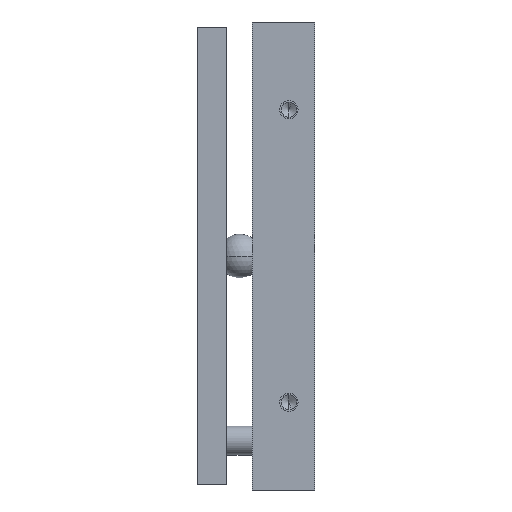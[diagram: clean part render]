
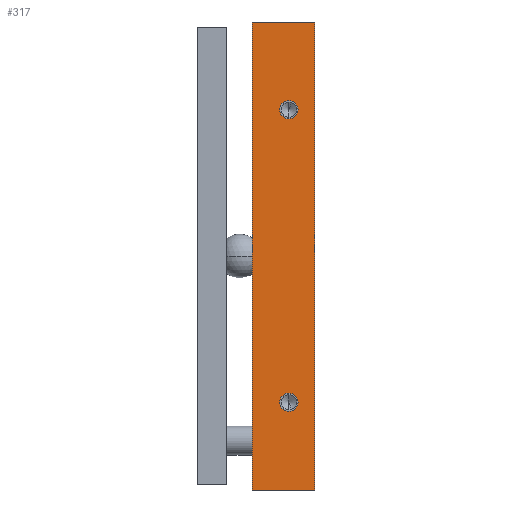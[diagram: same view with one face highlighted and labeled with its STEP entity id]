
A CAD part, left-side view. The second image highlights one B-rep face of the part: STEP entity #317.
In plain terms, the highlighted planar face has unit normal (-1, 0, 0).
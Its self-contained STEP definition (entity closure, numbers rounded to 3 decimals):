
#71 = VERTEX_POINT ( 'NONE', #1657 ) ;
#134 = FACE_BOUND ( 'NONE', #4021, .T. ) ;
#148 = DIRECTION ( 'NONE',  ( -1., 0., 0. ) ) ;
#162 = VECTOR ( 'NONE', #2547, 1000. ) ;
#234 = DIRECTION ( 'NONE',  ( 0., -1., 0. ) ) ;
#317 = ADVANCED_FACE ( 'NONE', ( #134, #3235, #1218 ), #2781, .F. ) ;
#373 = ORIENTED_EDGE ( 'NONE', *, *, #4660, .F. ) ;
#384 = CARTESIAN_POINT ( 'NONE',  ( -64., -64., 0. ) ) ;
#421 = CIRCLE ( 'NONE', #2220, 2.5 ) ;
#444 = DIRECTION ( 'NONE',  ( 0., 1., 0. ) ) ;
#584 = EDGE_CURVE ( 'NONE', #659, #2874, #4125, .T. ) ;
#646 = CARTESIAN_POINT ( 'NONE',  ( -64., -64., 17. ) ) ;
#659 = VERTEX_POINT ( 'NONE', #1767 ) ;
#696 = ORIENTED_EDGE ( 'NONE', *, *, #1964, .F. ) ;
#727 = VERTEX_POINT ( 'NONE', #384 ) ;
#767 = EDGE_CURVE ( 'NONE', #4663, #71, #421, .T. ) ;
#836 = DIRECTION ( 'NONE',  ( 0., -1., 0. ) ) ;
#888 = DIRECTION ( 'NONE',  ( 1., 0., 0. ) ) ;
#914 = DIRECTION ( 'NONE',  ( -1., 0., 0. ) ) ;
#924 = EDGE_LOOP ( 'NONE', ( #373, #2132 ) ) ;
#1098 = DIRECTION ( 'NONE',  ( 0., -1., 0. ) ) ;
#1100 = AXIS2_PLACEMENT_3D ( 'NONE', #1646, #914, #836 ) ;
#1177 = ORIENTED_EDGE ( 'NONE', *, *, #1772, .T. ) ;
#1218 = FACE_OUTER_BOUND ( 'NONE', #2859, .T. ) ;
#1450 = CARTESIAN_POINT ( 'NONE',  ( -64., 42.5, 7. ) ) ;
#1552 = VERTEX_POINT ( 'NONE', #3584 ) ;
#1646 = CARTESIAN_POINT ( 'NONE',  ( -64., 40., 7. ) ) ;
#1657 = CARTESIAN_POINT ( 'NONE',  ( -64., 37.5, 7. ) ) ;
#1692 = CARTESIAN_POINT ( 'NONE',  ( -64., -40., 7. ) ) ;
#1744 = CIRCLE ( 'NONE', #1100, 2.5 ) ;
#1767 = CARTESIAN_POINT ( 'NONE',  ( -64., -37.5, 7. ) ) ;
#1772 = EDGE_CURVE ( 'NONE', #2076, #727, #4851, .T. ) ;
#1851 = CARTESIAN_POINT ( 'NONE',  ( -64., 64., 17. ) ) ;
#1888 = AXIS2_PLACEMENT_3D ( 'NONE', #1692, #148, #4875 ) ;
#1950 = ORIENTED_EDGE ( 'NONE', *, *, #3532, .F. ) ;
#1964 = EDGE_CURVE ( 'NONE', #1552, #727, #4180, .T. ) ;
#2076 = VERTEX_POINT ( 'NONE', #4752 ) ;
#2132 = ORIENTED_EDGE ( 'NONE', *, *, #584, .F. ) ;
#2138 = DIRECTION ( 'NONE',  ( 0., 0., -1. ) ) ;
#2163 = VECTOR ( 'NONE', #2138, 1000. ) ;
#2179 = CARTESIAN_POINT ( 'NONE',  ( -64., -42.5, 7. ) ) ;
#2213 = CARTESIAN_POINT ( 'NONE',  ( -64., 64., 17. ) ) ;
#2220 = AXIS2_PLACEMENT_3D ( 'NONE', #3947, #2363, #3223 ) ;
#2251 = ORIENTED_EDGE ( 'NONE', *, *, #3241, .F. ) ;
#2333 = ORIENTED_EDGE ( 'NONE', *, *, #767, .F. ) ;
#2363 = DIRECTION ( 'NONE',  ( -1., 0., 0. ) ) ;
#2547 = DIRECTION ( 'NONE',  ( 0., -1., 0. ) ) ;
#2573 = CARTESIAN_POINT ( 'NONE',  ( -64., 64., 0. ) ) ;
#2646 = VECTOR ( 'NONE', #234, 1000. ) ;
#2657 = LINE ( 'NONE', #2213, #2646 ) ;
#2781 = PLANE ( 'NONE',  #2792 ) ;
#2792 = AXIS2_PLACEMENT_3D ( 'NONE', #4420, #888, #444 ) ;
#2859 = EDGE_LOOP ( 'NONE', ( #1177, #696, #2251, #3193 ) ) ;
#2874 = VERTEX_POINT ( 'NONE', #2179 ) ;
#3193 = ORIENTED_EDGE ( 'NONE', *, *, #3685, .T. ) ;
#3223 = DIRECTION ( 'NONE',  ( 0., -1., 0. ) ) ;
#3235 = FACE_BOUND ( 'NONE', #924, .T. ) ;
#3241 = EDGE_CURVE ( 'NONE', #4621, #1552, #2657, .T. ) ;
#3468 = CARTESIAN_POINT ( 'NONE',  ( -64., -40., 7. ) ) ;
#3532 = EDGE_CURVE ( 'NONE', #71, #4663, #1744, .T. ) ;
#3584 = CARTESIAN_POINT ( 'NONE',  ( -64., -64., 17. ) ) ;
#3685 = EDGE_CURVE ( 'NONE', #4621, #2076, #4182, .T. ) ;
#3947 = CARTESIAN_POINT ( 'NONE',  ( -64., 40., 7. ) ) ;
#4021 = EDGE_LOOP ( 'NONE', ( #1950, #2333 ) ) ;
#4125 = CIRCLE ( 'NONE', #1888, 2.5 ) ;
#4180 = LINE ( 'NONE', #646, #4457 ) ;
#4182 = LINE ( 'NONE', #1851, #2163 ) ;
#4244 = CARTESIAN_POINT ( 'NONE',  ( -64., 64., 17. ) ) ;
#4420 = CARTESIAN_POINT ( 'NONE',  ( -64., 64., 17. ) ) ;
#4457 = VECTOR ( 'NONE', #4727, 1000. ) ;
#4621 = VERTEX_POINT ( 'NONE', #4244 ) ;
#4627 = DIRECTION ( 'NONE',  ( -1., 0., 0. ) ) ;
#4660 = EDGE_CURVE ( 'NONE', #2874, #659, #4900, .T. ) ;
#4663 = VERTEX_POINT ( 'NONE', #1450 ) ;
#4727 = DIRECTION ( 'NONE',  ( 0., 0., -1. ) ) ;
#4736 = AXIS2_PLACEMENT_3D ( 'NONE', #3468, #4627, #1098 ) ;
#4752 = CARTESIAN_POINT ( 'NONE',  ( -64., 64., 0. ) ) ;
#4851 = LINE ( 'NONE', #2573, #162 ) ;
#4875 = DIRECTION ( 'NONE',  ( 0., -1., 0. ) ) ;
#4900 = CIRCLE ( 'NONE', #4736, 2.5 ) ;
